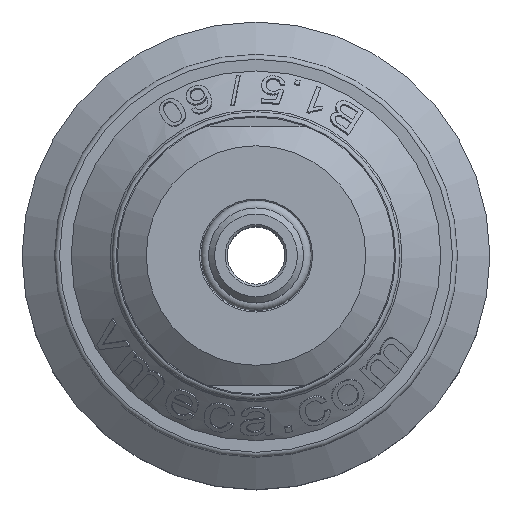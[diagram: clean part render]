
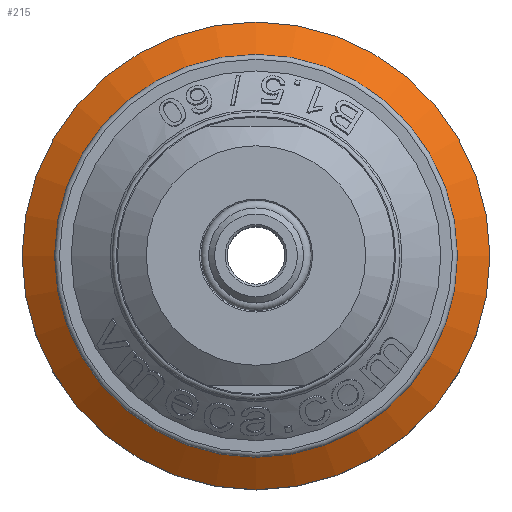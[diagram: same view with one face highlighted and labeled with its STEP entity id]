
A CAD part, top view. The second image highlights one B-rep face of the part: STEP entity #215.
In plain terms, the highlighted conical face has half-angle 54.873 degrees and reference radius 26.345 mm.
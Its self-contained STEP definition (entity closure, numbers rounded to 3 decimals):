
#215 = ADVANCED_FACE( '', ( #829, #830 ), #831, .T. );
#829 = FACE_OUTER_BOUND( '', #2100, .T. );
#830 = FACE_BOUND( '', #2101, .T. );
#831 = CONICAL_SURFACE( '', #2102, 26.344, 0.958 );
#2100 = EDGE_LOOP( '', ( #8755 ) );
#2101 = EDGE_LOOP( '', ( #8756 ) );
#2102 = AXIS2_PLACEMENT_3D( '', #8757, #8758, #8759 );
#8755 = ORIENTED_EDGE( '', *, *, #12824, .F. );
#8756 = ORIENTED_EDGE( '', *, *, #12834, .T. );
#8757 = CARTESIAN_POINT( '', ( 0., 0., -2.113 ) );
#8758 = DIRECTION( '', ( 0., 0., -1. ) );
#8759 = DIRECTION( '', ( -1., 0., 0. ) );
#12824 = EDGE_CURVE( '', #14172, #14172, #14173, .T. );
#12834 = EDGE_CURVE( '', #14192, #14192, #14193, .T. );
#14172 = VERTEX_POINT( '', #16411 );
#14173 = CIRCLE( '', #16412, 32.5 );
#14192 = VERTEX_POINT( '', #16431 );
#14193 = CIRCLE( '', #16432, 26.344 );
#16411 = CARTESIAN_POINT( '', ( -32.5, 0., -6.443 ) );
#16412 = AXIS2_PLACEMENT_3D( '', #25797, #25798, #25799 );
#16431 = CARTESIAN_POINT( '', ( -26.344, 0., -2.113 ) );
#16432 = AXIS2_PLACEMENT_3D( '', #25827, #25828, #25829 );
#25797 = CARTESIAN_POINT( '', ( 0., 0., -6.443 ) );
#25798 = DIRECTION( '', ( 0., 0., -1. ) );
#25799 = DIRECTION( '', ( -1., 0., 0. ) );
#25827 = CARTESIAN_POINT( '', ( 0., 0., -2.113 ) );
#25828 = DIRECTION( '', ( 0., 0., -1. ) );
#25829 = DIRECTION( '', ( -1., 0., 0. ) );
